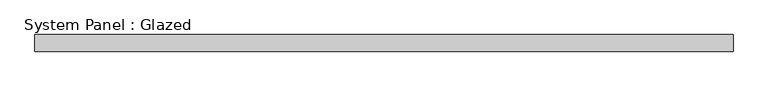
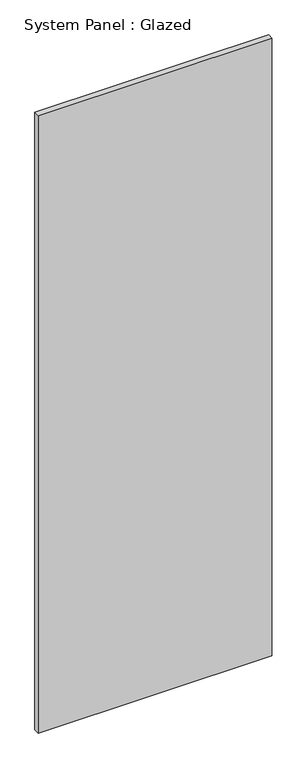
"""IFC4 building model written with IfcOpenShell, lengths in millimetres: plate geometry, System Panel : Glazed."""

from ifc_helpers import new_model, si_unit, origin, origin_with_axes, place, context, project, spatial, polyline, outline, extrude, source, transform, mapped, element, save


def system_panel_glazed_88e9035b(model_context):
    return source(origin(), model_context, "Body", "SweptSolid", [
        extrude(outline(polyline([(516.25, -72.5), (-516.25, -72.5), (-516.25, -47.5), (516.25, -47.5), (516.25, -72.5)])), origin_with_axes(), (0.0, 0.0, 1.0), 2884.9999998),
    ])


if __name__ == "__main__":
    model = new_model("IFC4")
    model_context = context("Model", 3, world=origin())
    ifc_project = project(units=[si_unit("LENGTHUNIT", "METRE", prefix="MILLI")], contexts=[model_context])
    site = spatial("IfcSite", under=ifc_project)
    building = spatial("IfcBuilding", under=site)
    placement = place(None, origin())
    system_panel_glazed_shape = system_panel_glazed_88e9035b(model_context)
    element("IfcPlate", 1, ObjectType="System Panel : Glazed", at=placement, inside=building, context=model_context, shape_type="MappedRepresentation", body=[
        mapped(system_panel_glazed_shape, transform((0.0, 0.0, 0.0), x_axis=(1.0, 0.0, 0.0), y_axis=(0.0, 1.0, 0.0), z_axis=(0.0, 0.0, 1.0))),
    ])
    save(model, "model.ifc")
